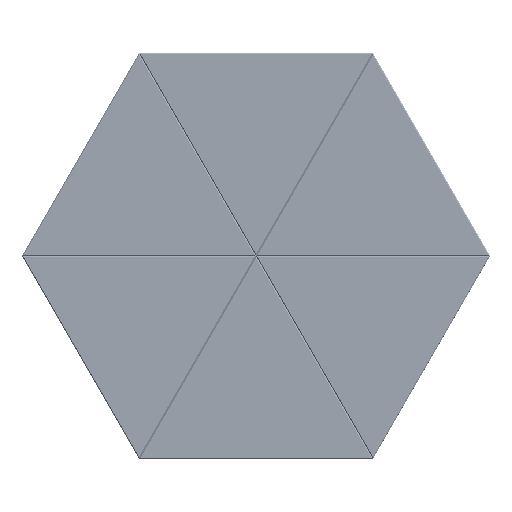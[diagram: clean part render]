
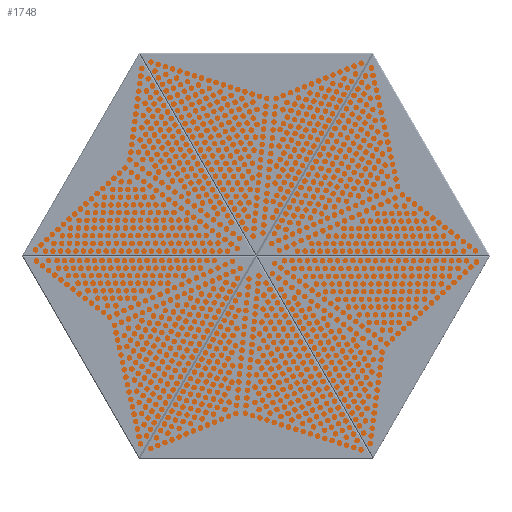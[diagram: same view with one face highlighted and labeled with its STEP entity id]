
A CAD part, top view. The second image highlights one B-rep face of the part: STEP entity #1748.
In plain terms, the highlighted planar face has unit normal (0, 0, -1).
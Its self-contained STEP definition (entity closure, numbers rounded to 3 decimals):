
#1748=ADVANCED_FACE('',(#1779),#10782,.T.);
#1779=FACE_OUTER_BOUND('',#1810,.T.);
#1810=EDGE_LOOP('',(#3575,#3576,#3577,#3578,#3579,#3580));
#3575=ORIENTED_EDGE('',*,*,#5434,.F.);
#3576=ORIENTED_EDGE('',*,*,#5432,.F.);
#3577=ORIENTED_EDGE('',*,*,#5430,.F.);
#3578=ORIENTED_EDGE('',*,*,#5429,.F.);
#3579=ORIENTED_EDGE('',*,*,#5431,.F.);
#3580=ORIENTED_EDGE('',*,*,#5433,.F.);
#5429=EDGE_CURVE('',#9017,#9018,#8957,.T.);
#5430=EDGE_CURVE('',#9018,#9019,#8958,.T.);
#5431=EDGE_CURVE('',#9020,#9017,#8959,.T.);
#5432=EDGE_CURVE('',#9019,#9021,#8960,.T.);
#5433=EDGE_CURVE('',#9022,#9020,#8961,.T.);
#5434=EDGE_CURVE('',#9021,#9022,#8962,.T.);
#8957=B_SPLINE_CURVE_WITH_KNOTS('',1,(#12765,#12766),.UNSPECIFIED.,.F.,
 .F.,(2,2),(-1000.,-750.),.UNSPECIFIED.);
#8958=B_SPLINE_CURVE_WITH_KNOTS('',1,(#12767,#12768),.UNSPECIFIED.,.F.,
 .F.,(2,2),(-750.,-500.),.UNSPECIFIED.);
#8959=B_SPLINE_CURVE_WITH_KNOTS('',1,(#12769,#12770),.UNSPECIFIED.,.F.,
 .F.,(2,2),(-1250.,-1000.),.UNSPECIFIED.);
#8960=B_SPLINE_CURVE_WITH_KNOTS('',1,(#12771,#12772),.UNSPECIFIED.,.F.,
 .F.,(2,2),(-500.,-250.),.UNSPECIFIED.);
#8961=B_SPLINE_CURVE_WITH_KNOTS('',1,(#12773,#12774),.UNSPECIFIED.,.F.,
 .F.,(2,2),(-1500.,-1250.),.UNSPECIFIED.);
#8962=B_SPLINE_CURVE_WITH_KNOTS('',1,(#12775,#12776),.UNSPECIFIED.,.F.,
 .F.,(2,2),(-250.,0.),.UNSPECIFIED.);
#9017=VERTEX_POINT('',#11000);
#9018=VERTEX_POINT('',#11001);
#9019=VERTEX_POINT('',#11002);
#9020=VERTEX_POINT('',#11003);
#9021=VERTEX_POINT('',#11004);
#9022=VERTEX_POINT('',#11005);
#10782=PLANE('',#10901);
#10901=AXIS2_PLACEMENT_3D('',#10969,#10935,$);
#10935=DIRECTION('',(0.,0.,-1.));
#10969=CARTESIAN_POINT('',(425.,476.314,0.));
#11000=CARTESIAN_POINT('',(0.,0.,0.));
#11001=CARTESIAN_POINT('',(250.,0.,0.));
#11002=CARTESIAN_POINT('',(375.,216.506,0.));
#11003=CARTESIAN_POINT('',(-125.,216.506,0.));
#11004=CARTESIAN_POINT('',(250.,433.013,0.));
#11005=CARTESIAN_POINT('',(0.,433.013,0.));
#12765=CARTESIAN_POINT('',(0.,0.,0.));
#12766=CARTESIAN_POINT('',(250.,0.,0.));
#12767=CARTESIAN_POINT('',(250.,0.,0.));
#12768=CARTESIAN_POINT('',(375.,216.506,0.));
#12769=CARTESIAN_POINT('',(-125.,216.506,0.));
#12770=CARTESIAN_POINT('',(0.,0.,0.));
#12771=CARTESIAN_POINT('',(375.,216.506,0.));
#12772=CARTESIAN_POINT('',(250.,433.013,0.));
#12773=CARTESIAN_POINT('',(0.,433.013,0.));
#12774=CARTESIAN_POINT('',(-125.,216.506,0.));
#12775=CARTESIAN_POINT('',(250.,433.013,0.));
#12776=CARTESIAN_POINT('',(0.,433.013,0.));
